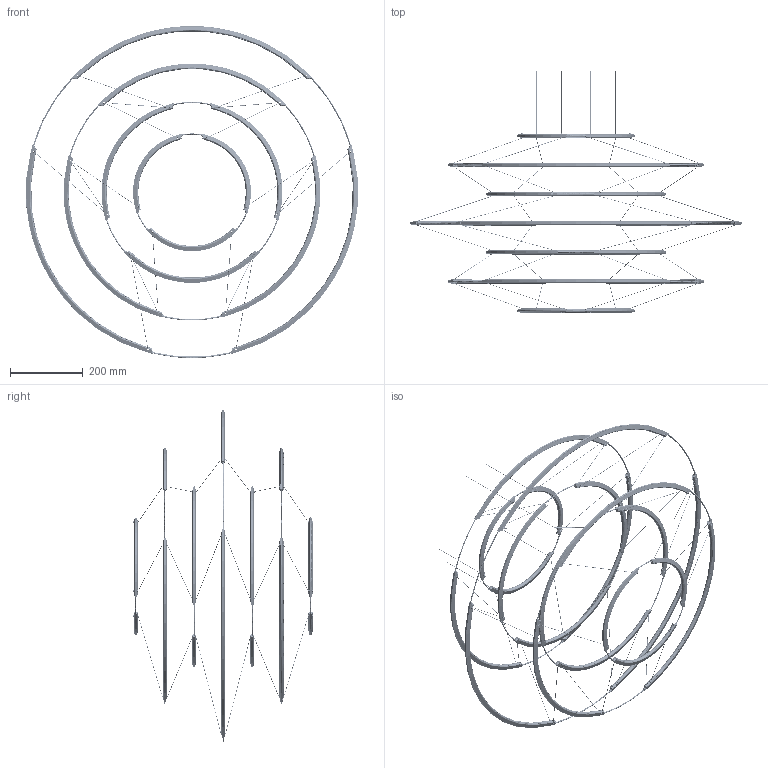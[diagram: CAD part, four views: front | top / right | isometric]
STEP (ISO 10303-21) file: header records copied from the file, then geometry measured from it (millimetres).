
FILE_DESCRIPTION (( 'STEP AP214' ), '1' );
FILE_NAME ('800DRPLNN521.STEP', '2023-06-13T10:37:26', ( '' ), ( '' ), 'SwSTEP 2.0', 'SolidWorks 2016', '' );
FILE_SCHEMA (( 'AUTOMOTIVE_DESIGN' ));
Length unit declared in the file: millimetre
Products named in the file (53): ASS_TERZO_DROP_300; 000_ASS_A DROP_CONNETTORE_-; ASS_TERZO_DROP_700; piano singolo_700; 010DRP000100-500_tondino piegato_300; 093DRP000100_striscia LED DROP A MISURA_700; 051DRP000100_estruso drop_712; 000_ASS_A DROP_CONNETTORE_+; ASS_TERZO_DROP_500; ASS_TERZO_DROP_900; grano EI M3x6; SpecchiaturaParte1^800DRPLNN521; 010DRP000100-500_tondino piegato_500; 010DRP000100-500_tondino piegato_900; 800DRPLNN521; Parte1^800DRPLNN521; 010DRP000610_BRASS_CON_15x5.5x4mm_2xM3; 093DRP000100_striscia LED DROP A MISURA_300; DRP_PROFILO PLASTICA_GIPLAST13PE59_912; grano EI M5x08 PP; 051DRP000100_estruso drop_512; 093DRP000100_striscia LED DROP A MISURA_500; Terminale_spezzoni_giuntati_L6_D2.7; piano singolo_300; DRP_PROFILO PLASTICA_GIPLAST13PE59_312; piano singolo_500; 052DRP700100-200_END CAP_foro_lamato_-; 052DRP700100-200_END CAP_foro_lamato_+; piano singolo_900; 010DRP000100-500_tondino piegato_700; 093DRP000100_striscia LED DROP A MISURA_900; 051DRP000100_estruso drop_912; 002COM000084_VITE 3x08 TC TORX SCREWPLAST; DRP_PROFILO PLASTICA_GIPLAST13PE59_512; 051DRP000100_estruso drop_312; DRP_PROFILO PLASTICA_GIPLAST13PE59_712
Assembly tree (127 placements, depth 5):
  800DRPLNN521
    piano singolo_300
      ASS_TERZO_DROP_300
        051DRP000100_estruso drop_312
        000_ASS_A DROP_CONNETTORE_-
          052DRP700100-200_END CAP_foro_lamato_-
          grano EI M5x08 PP
        000_ASS_A DROP_CONNETTORE_+
          052DRP700100-200_END CAP_foro_lamato_+
        DRP_PROFILO PLASTICA_GIPLAST13PE59_312
        010DRP000100-500_tondino piegato_300
      ASS_TERZO_DROP_300
        051DRP000100_estruso drop_312
        000_ASS_A DROP_CONNETTORE_-
          052DRP700100-200_END CAP_foro_lamato_-
        000_ASS_A DROP_CONNETTORE_+
          052DRP700100-200_END CAP_foro_lamato_+
        DRP_PROFILO PLASTICA_GIPLAST13PE59_312
        010DRP000100-500_tondino piegato_300
      ASS_TERZO_DROP_300
        051DRP000100_estruso drop_312
        000_ASS_A DROP_CONNETTORE_-
          052DRP700100-200_END CAP_foro_lamato_-
        000_ASS_A DROP_CONNETTORE_+
          052DRP700100-200_END CAP_foro_lamato_+
          Terminale_spezzoni_giuntati_L6_D2.7
        093DRP000100_striscia LED DROP A MISURA_300
        DRP_PROFILO PLASTICA_GIPLAST13PE59_312
        010DRP000100-500_tondino piegato_300
    piano singolo_700
      ASS_TERZO_DROP_700
        051DRP000100_estruso drop_712
        000_ASS_A DROP_CONNETTORE_-
          052DRP700100-200_END CAP_foro_lamato_-
        000_ASS_A DROP_CONNETTORE_+
          052DRP700100-200_END CAP_foro_lamato_+
          010DRP000610_BRASS_CON_15x5.5x4mm_2xM3
          grano EI M3x6  x2
          grano EI M5x08 PP
          002COM000084_VITE 3x08 TC TORX SCREWPLAST
          Terminale_spezzoni_giuntati_L6_D2.7
        093DRP000100_striscia LED DROP A MISURA_700
        DRP_PROFILO PLASTICA_GIPLAST13PE59_712
        010DRP000100-500_tondino piegato_700
      ASS_TERZO_DROP_700
        051DRP000100_estruso drop_712
        000_ASS_A DROP_CONNETTORE_-
          052DRP700100-200_END CAP_foro_lamato_-
        000_ASS_A DROP_CONNETTORE_+
          052DRP700100-200_END CAP_foro_lamato_+
          Terminale_spezzoni_giuntati_L6_D2.7
        093DRP000100_striscia LED DROP A MISURA_700
        DRP_PROFILO PLASTICA_GIPLAST13PE59_712
        010DRP000100-500_tondino piegato_700
      ASS_TERZO_DROP_700
        051DRP000100_estruso drop_712
        000_ASS_A DROP_CONNETTORE_-
          052DRP700100-200_END CAP_foro_lamato_-
        000_ASS_A DROP_CONNETTORE_+
          052DRP700100-200_END CAP_foro_lamato_+
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Bounding box: 911.2 x 664.35 x 911.77 mm (x, y, z)
Volume: 601693.5 mm3; surface area: 991921.3 mm2
Topology: 136 solids, 139 shells, 10514 faces, 27327 edges, 16392 vertices
Faces by surface type: plane 3503, cylinder 3445, bspline 1622, torus 877, cone 739, sphere 328
Entity records: 86022 total; most frequent: CARTESIAN_POINT 52592, ORIENTED_EDGE 6869, DIRECTION 5453, EDGE_CURVE 3437, VERTEX_POINT 2102, AXIS2_PLACEMENT_3D 2102, EDGE_LOOP 1415, FACE_OUTER_BOUND 1386
